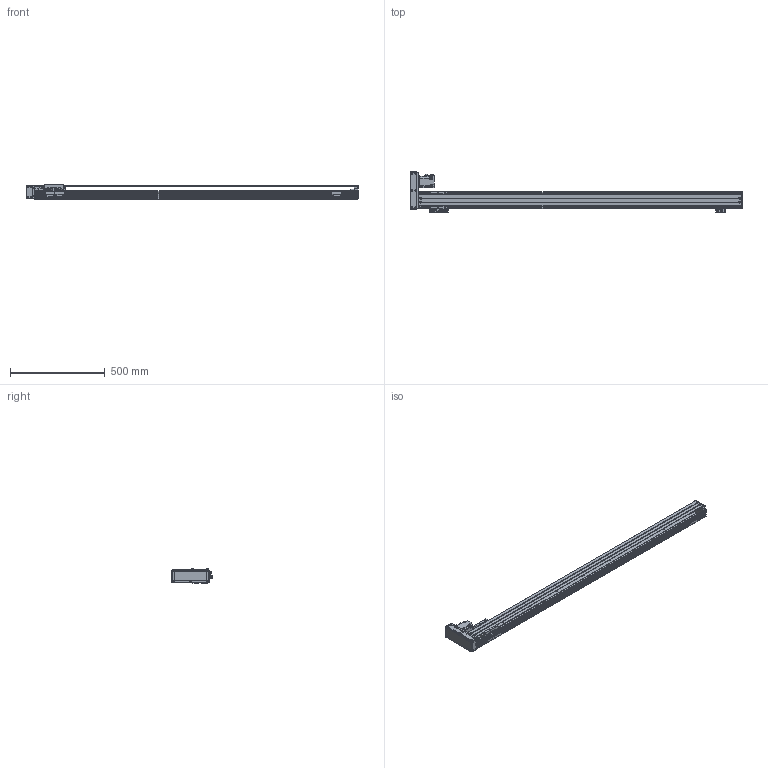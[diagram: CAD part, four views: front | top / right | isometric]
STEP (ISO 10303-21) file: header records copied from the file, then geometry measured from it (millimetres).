
FILE_DESCRIPTION(/* description */ (''),/* implementation_level */ '2;1');
FILE_NAME(/* name */ '\\192.168.0.160\disk1\HAN SHIN Master\B-설계부문\C-표준\B-2024년\BC02-표준도면\+로봇 개선표준도면\표준 승인도 작업 폴더\3D\HG90\HG90병렬\좌병렬\HG90-L20-N1B-1500-R10.stp',/* time_stamp */ '2024-02-16T14:48:03+09:00',/* author */ ('User'),/* organization */ (''),/* preprocessor_version */ 'ST-DEVELOPER v18.1',/* originating_system */ 'Autodesk Inventor 2022',/* authorisation */ '');
FILE_SCHEMA (('AUTOMOTIVE_DESIGN { 1 0 10303 214 3 1 1 }'));
Length unit declared in the file: millimetre
Products named in the file (24): HG90-L20-N1B-0500-R10; HR90 BASE 100W 1BLOCK; HR90 FRONT BLOCK; HR90 REAR BLOCK TENSION; HR90 REAR COVER-TENSION; HG4UPCOV002; HR120 SENSOR DOG; HG90STOPPER - 27L; HG90STOPPER - 20L; HC90-LR-MOTOR PLATE(200W)-사출; MOTOR PLATE-200W(MITSUBISHI); hg-kr23_; 화살표; HR65-LR-BELT COVER; HC90-BELT COVER-COVER3; M-5HL-4; hsr_ftht_A-M6F_grease_nipple_joint; NIPPLE CAP(신규); HR90 TABLE; LMKE1520 NUT; SENSOR BRK(EE-SX674A); EE_SX674A; HR75-D-BELT COVER-COVER; HC90-BELT COVER-COVER2
Assembly tree (31 placements, depth 2):
  HG90-L20-N1B-0500-R10
    HR90 BASE 100W 1BLOCK
    HR90 FRONT BLOCK
    HR90 REAR BLOCK TENSION
    HR90 REAR COVER-TENSION
    HG4UPCOV002
    EE_SX674A  x3
    SENSOR BRK(EE-SX674A)  x3
    HR120 SENSOR DOG
    HG90STOPPER - 27L
    HG90STOPPER - 20L
    HC90-LR-MOTOR PLATE(200W)-사출
    MOTOR PLATE-200W(MITSUBISHI)
    hg-kr23_
    화살표  x2
    HC90-BELT COVER-COVER3  x2
    HR65-LR-BELT COVER
    hsr_ftht_A-M6F_grease_nipple_joint  x2
    NIPPLE CAP(신규)  x2
    M-5HL-4
    HR90 TABLE
    LMKE1520 NUT
    HR75-D-BELT COVER-COVER
    HC90-BELT COVER-COVER2
Bounding box: 1749 x 215 x 75 mm (x, y, z)
Volume: 2988138.4 mm3; surface area: 1275826.6 mm2
Topology: 31 solids, 31 shells, 1601 faces, 4234 edges, 2773 vertices
Faces by surface type: plane 763, cylinder 656, cone 138, sphere 24, torus 12, bspline 8
Full cylindrical faces by diameter (mm): 1.8 x1, 2 x4, 2.459 x38, 2.5 x2, 3 x8, 3.242 x25, 3.4 x20, 3.5 x6, 4 x4, 4.134 x61, 4.5 x16, 4.917 x5, 5 x29, 5.5 x36, 5.6 x10, 5.8 x4, 5.9 x8, 6 x6, 6.5 x5, 7 x1, 8 x1, 9.5 x32, 14 x1, 15 x3, 17 x1, 20 x1, 22 x1, 25 x1, 28 x1, 32 x2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
Entity records: 43539 total; most frequent: CARTESIAN_POINT 8255, DIRECTION 7356, ORIENTED_EDGE 6844, EDGE_CURVE 3422, AXIS2_PLACEMENT_3D 2692, VERTEX_POINT 2274, LINE 1972, VECTOR 1972
